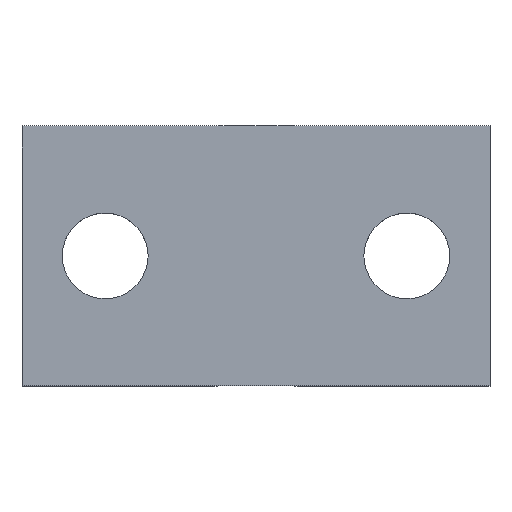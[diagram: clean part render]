
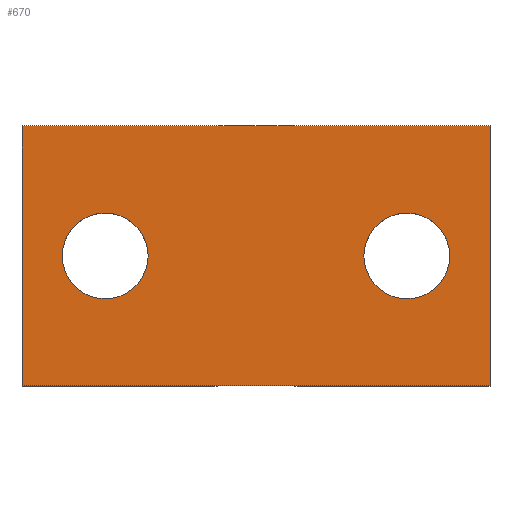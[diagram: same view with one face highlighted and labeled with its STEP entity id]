
A CAD part, top view. The second image highlights one B-rep face of the part: STEP entity #670.
In plain terms, the highlighted planar face has unit normal (0, 0, 1).
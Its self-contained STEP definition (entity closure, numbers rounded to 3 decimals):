
#32 = PLANE('',#33);
#33 = AXIS2_PLACEMENT_3D('',#34,#35,#36);
#34 = CARTESIAN_POINT('',(-9.,-5.,0.));
#35 = DIRECTION('',(0.,1.,0.));
#36 = DIRECTION('',(1.,0.,0.));
#57 = VERTEX_POINT('',#58);
#58 = CARTESIAN_POINT('',(-9.,-5.,3.6));
#72 = PLANE('',#73);
#73 = AXIS2_PLACEMENT_3D('',#74,#75,#76);
#74 = CARTESIAN_POINT('',(-9.,5.,0.));
#75 = DIRECTION('',(1.,0.,-0.));
#76 = DIRECTION('',(0.,-1.,0.));
#84 = EDGE_CURVE('',#57,#85,#87,.T.);
#85 = VERTEX_POINT('',#86);
#86 = CARTESIAN_POINT('',(9.,-5.,3.6));
#87 = SURFACE_CURVE('',#88,(#92,#99),.PCURVE_S1.);
#88 = LINE('',#89,#90);
#89 = CARTESIAN_POINT('',(-9.,-5.,3.6));
#90 = VECTOR('',#91,1.);
#91 = DIRECTION('',(1.,0.,0.));
#92 = PCURVE('',#32,#93);
#93 = DEFINITIONAL_REPRESENTATION('',(#94),#98);
#94 = LINE('',#95,#96);
#95 = CARTESIAN_POINT('',(0.,-3.6));
#96 = VECTOR('',#97,1.);
#97 = DIRECTION('',(1.,0.));
#98 = ( GEOMETRIC_REPRESENTATION_CONTEXT(2) 
PARAMETRIC_REPRESENTATION_CONTEXT() REPRESENTATION_CONTEXT('2D SPACE',''
  ) );
#99 = PCURVE('',#100,#105);
#100 = PLANE('',#101);
#101 = AXIS2_PLACEMENT_3D('',#102,#103,#104);
#102 = CARTESIAN_POINT('',(0.,0.,3.6));
#103 = DIRECTION('',(0.,0.,1.));
#104 = DIRECTION('',(1.,0.,-0.));
#105 = DEFINITIONAL_REPRESENTATION('',(#106),#110);
#106 = LINE('',#107,#108);
#107 = CARTESIAN_POINT('',(-9.,-5.));
#108 = VECTOR('',#109,1.);
#109 = DIRECTION('',(1.,0.));
#110 = ( GEOMETRIC_REPRESENTATION_CONTEXT(2) 
PARAMETRIC_REPRESENTATION_CONTEXT() REPRESENTATION_CONTEXT('2D SPACE',''
  ) );
#128 = PLANE('',#129);
#129 = AXIS2_PLACEMENT_3D('',#130,#131,#132);
#130 = CARTESIAN_POINT('',(9.,-5.,0.));
#131 = DIRECTION('',(-1.,0.,0.));
#132 = DIRECTION('',(0.,1.,0.));
#309 = PLANE('',#310);
#310 = AXIS2_PLACEMENT_3D('',#311,#312,#313);
#311 = CARTESIAN_POINT('',(9.,5.,0.));
#312 = DIRECTION('',(0.,-1.,0.));
#313 = DIRECTION('',(-1.,0.,0.));
#340 = CYLINDRICAL_SURFACE('',#341,1.65);
#341 = AXIS2_PLACEMENT_3D('',#342,#343,#344);
#342 = CARTESIAN_POINT('',(-5.8,0.,0.));
#343 = DIRECTION('',(-0.,-0.,-1.));
#344 = DIRECTION('',(1.,0.,0.));
#610 = CYLINDRICAL_SURFACE('',#611,1.65);
#611 = AXIS2_PLACEMENT_3D('',#612,#613,#614);
#612 = CARTESIAN_POINT('',(5.8,0.,0.));
#613 = DIRECTION('',(-0.,-0.,-1.));
#614 = DIRECTION('',(1.,0.,0.));
#626 = EDGE_CURVE('',#85,#627,#629,.T.);
#627 = VERTEX_POINT('',#628);
#628 = CARTESIAN_POINT('',(9.,5.,3.6));
#629 = SURFACE_CURVE('',#630,(#634,#641),.PCURVE_S1.);
#630 = LINE('',#631,#632);
#631 = CARTESIAN_POINT('',(9.,-5.,3.6));
#632 = VECTOR('',#633,1.);
#633 = DIRECTION('',(0.,1.,0.));
#634 = PCURVE('',#128,#635);
#635 = DEFINITIONAL_REPRESENTATION('',(#636),#640);
#636 = LINE('',#637,#638);
#637 = CARTESIAN_POINT('',(0.,-3.6));
#638 = VECTOR('',#639,1.);
#639 = DIRECTION('',(1.,0.));
#640 = ( GEOMETRIC_REPRESENTATION_CONTEXT(2) 
PARAMETRIC_REPRESENTATION_CONTEXT() REPRESENTATION_CONTEXT('2D SPACE',''
  ) );
#641 = PCURVE('',#100,#642);
#642 = DEFINITIONAL_REPRESENTATION('',(#643),#647);
#643 = LINE('',#644,#645);
#644 = CARTESIAN_POINT('',(9.,-5.));
#645 = VECTOR('',#646,1.);
#646 = DIRECTION('',(0.,1.));
#647 = ( GEOMETRIC_REPRESENTATION_CONTEXT(2) 
PARAMETRIC_REPRESENTATION_CONTEXT() REPRESENTATION_CONTEXT('2D SPACE',''
  ) );
#670 = ADVANCED_FACE('',(#671,#719,#749),#100,.T.);
#671 = FACE_BOUND('',#672,.T.);
#672 = EDGE_LOOP('',(#673,#674,#675,#698));
#673 = ORIENTED_EDGE('',*,*,#84,.T.);
#674 = ORIENTED_EDGE('',*,*,#626,.T.);
#675 = ORIENTED_EDGE('',*,*,#676,.T.);
#676 = EDGE_CURVE('',#627,#677,#679,.T.);
#677 = VERTEX_POINT('',#678);
#678 = CARTESIAN_POINT('',(-9.,5.,3.6));
#679 = SURFACE_CURVE('',#680,(#684,#691),.PCURVE_S1.);
#680 = LINE('',#681,#682);
#681 = CARTESIAN_POINT('',(9.,5.,3.6));
#682 = VECTOR('',#683,1.);
#683 = DIRECTION('',(-1.,0.,0.));
#684 = PCURVE('',#100,#685);
#685 = DEFINITIONAL_REPRESENTATION('',(#686),#690);
#686 = LINE('',#687,#688);
#687 = CARTESIAN_POINT('',(9.,5.));
#688 = VECTOR('',#689,1.);
#689 = DIRECTION('',(-1.,0.));
#690 = ( GEOMETRIC_REPRESENTATION_CONTEXT(2) 
PARAMETRIC_REPRESENTATION_CONTEXT() REPRESENTATION_CONTEXT('2D SPACE',''
  ) );
#691 = PCURVE('',#309,#692);
#692 = DEFINITIONAL_REPRESENTATION('',(#693),#697);
#693 = LINE('',#694,#695);
#694 = CARTESIAN_POINT('',(0.,-3.6));
#695 = VECTOR('',#696,1.);
#696 = DIRECTION('',(1.,0.));
#697 = ( GEOMETRIC_REPRESENTATION_CONTEXT(2) 
PARAMETRIC_REPRESENTATION_CONTEXT() REPRESENTATION_CONTEXT('2D SPACE',''
  ) );
#698 = ORIENTED_EDGE('',*,*,#699,.T.);
#699 = EDGE_CURVE('',#677,#57,#700,.T.);
#700 = SURFACE_CURVE('',#701,(#705,#712),.PCURVE_S1.);
#701 = LINE('',#702,#703);
#702 = CARTESIAN_POINT('',(-9.,5.,3.6));
#703 = VECTOR('',#704,1.);
#704 = DIRECTION('',(0.,-1.,0.));
#705 = PCURVE('',#100,#706);
#706 = DEFINITIONAL_REPRESENTATION('',(#707),#711);
#707 = LINE('',#708,#709);
#708 = CARTESIAN_POINT('',(-9.,5.));
#709 = VECTOR('',#710,1.);
#710 = DIRECTION('',(0.,-1.));
#711 = ( GEOMETRIC_REPRESENTATION_CONTEXT(2) 
PARAMETRIC_REPRESENTATION_CONTEXT() REPRESENTATION_CONTEXT('2D SPACE',''
  ) );
#712 = PCURVE('',#72,#713);
#713 = DEFINITIONAL_REPRESENTATION('',(#714),#718);
#714 = LINE('',#715,#716);
#715 = CARTESIAN_POINT('',(0.,-3.6));
#716 = VECTOR('',#717,1.);
#717 = DIRECTION('',(1.,0.));
#718 = ( GEOMETRIC_REPRESENTATION_CONTEXT(2) 
PARAMETRIC_REPRESENTATION_CONTEXT() REPRESENTATION_CONTEXT('2D SPACE',''
  ) );
#719 = FACE_BOUND('',#720,.T.);
#720 = EDGE_LOOP('',(#721));
#721 = ORIENTED_EDGE('',*,*,#722,.T.);
#722 = EDGE_CURVE('',#723,#723,#725,.T.);
#723 = VERTEX_POINT('',#724);
#724 = CARTESIAN_POINT('',(-4.15,0.,3.6));
#725 = SURFACE_CURVE('',#726,(#731,#742),.PCURVE_S1.);
#726 = CIRCLE('',#727,1.65);
#727 = AXIS2_PLACEMENT_3D('',#728,#729,#730);
#728 = CARTESIAN_POINT('',(-5.8,0.,3.6));
#729 = DIRECTION('',(0.,0.,-1.));
#730 = DIRECTION('',(1.,0.,0.));
#731 = PCURVE('',#100,#732);
#732 = DEFINITIONAL_REPRESENTATION('',(#733),#741);
#733 = ( BOUNDED_CURVE() B_SPLINE_CURVE(2,(#734,#735,#736,#737,#738,#739
,#740),.UNSPECIFIED.,.T.,.F.) B_SPLINE_CURVE_WITH_KNOTS((1,2,2,2,2,1),(
    -2.094,0.,2.094,4.189,6.283,
8.378),.UNSPECIFIED.) CURVE() GEOMETRIC_REPRESENTATION_ITEM() 
RATIONAL_B_SPLINE_CURVE((1.,0.5,1.,0.5,1.,0.5,1.)) REPRESENTATION_ITEM(
  '') );
#734 = CARTESIAN_POINT('',(-4.15,0.));
#735 = CARTESIAN_POINT('',(-4.15,-2.858));
#736 = CARTESIAN_POINT('',(-6.625,-1.429));
#737 = CARTESIAN_POINT('',(-9.1,0.));
#738 = CARTESIAN_POINT('',(-6.625,1.429));
#739 = CARTESIAN_POINT('',(-4.15,2.858));
#740 = CARTESIAN_POINT('',(-4.15,0.));
#741 = ( GEOMETRIC_REPRESENTATION_CONTEXT(2) 
PARAMETRIC_REPRESENTATION_CONTEXT() REPRESENTATION_CONTEXT('2D SPACE',''
  ) );
#742 = PCURVE('',#340,#743);
#743 = DEFINITIONAL_REPRESENTATION('',(#744),#748);
#744 = LINE('',#745,#746);
#745 = CARTESIAN_POINT('',(-6.283,-3.6));
#746 = VECTOR('',#747,1.);
#747 = DIRECTION('',(1.,-0.));
#748 = ( GEOMETRIC_REPRESENTATION_CONTEXT(2) 
PARAMETRIC_REPRESENTATION_CONTEXT() REPRESENTATION_CONTEXT('2D SPACE',''
  ) );
#749 = FACE_BOUND('',#750,.T.);
#750 = EDGE_LOOP('',(#751));
#751 = ORIENTED_EDGE('',*,*,#752,.T.);
#752 = EDGE_CURVE('',#753,#753,#755,.T.);
#753 = VERTEX_POINT('',#754);
#754 = CARTESIAN_POINT('',(7.45,0.,3.6));
#755 = SURFACE_CURVE('',#756,(#761,#772),.PCURVE_S1.);
#756 = CIRCLE('',#757,1.65);
#757 = AXIS2_PLACEMENT_3D('',#758,#759,#760);
#758 = CARTESIAN_POINT('',(5.8,0.,3.6));
#759 = DIRECTION('',(0.,0.,-1.));
#760 = DIRECTION('',(1.,0.,0.));
#761 = PCURVE('',#100,#762);
#762 = DEFINITIONAL_REPRESENTATION('',(#763),#771);
#763 = ( BOUNDED_CURVE() B_SPLINE_CURVE(2,(#764,#765,#766,#767,#768,#769
,#770),.UNSPECIFIED.,.T.,.F.) B_SPLINE_CURVE_WITH_KNOTS((1,2,2,2,2,1),(
    -2.094,0.,2.094,4.189,6.283,
8.378),.UNSPECIFIED.) CURVE() GEOMETRIC_REPRESENTATION_ITEM() 
RATIONAL_B_SPLINE_CURVE((1.,0.5,1.,0.5,1.,0.5,1.)) REPRESENTATION_ITEM(
  '') );
#764 = CARTESIAN_POINT('',(7.45,0.));
#765 = CARTESIAN_POINT('',(7.45,-2.858));
#766 = CARTESIAN_POINT('',(4.975,-1.429));
#767 = CARTESIAN_POINT('',(2.5,0.));
#768 = CARTESIAN_POINT('',(4.975,1.429));
#769 = CARTESIAN_POINT('',(7.45,2.858));
#770 = CARTESIAN_POINT('',(7.45,0.));
#771 = ( GEOMETRIC_REPRESENTATION_CONTEXT(2) 
PARAMETRIC_REPRESENTATION_CONTEXT() REPRESENTATION_CONTEXT('2D SPACE',''
  ) );
#772 = PCURVE('',#610,#773);
#773 = DEFINITIONAL_REPRESENTATION('',(#774),#778);
#774 = LINE('',#775,#776);
#775 = CARTESIAN_POINT('',(-6.283,-3.6));
#776 = VECTOR('',#777,1.);
#777 = DIRECTION('',(1.,-0.));
#778 = ( GEOMETRIC_REPRESENTATION_CONTEXT(2) 
PARAMETRIC_REPRESENTATION_CONTEXT() REPRESENTATION_CONTEXT('2D SPACE',''
  ) );
